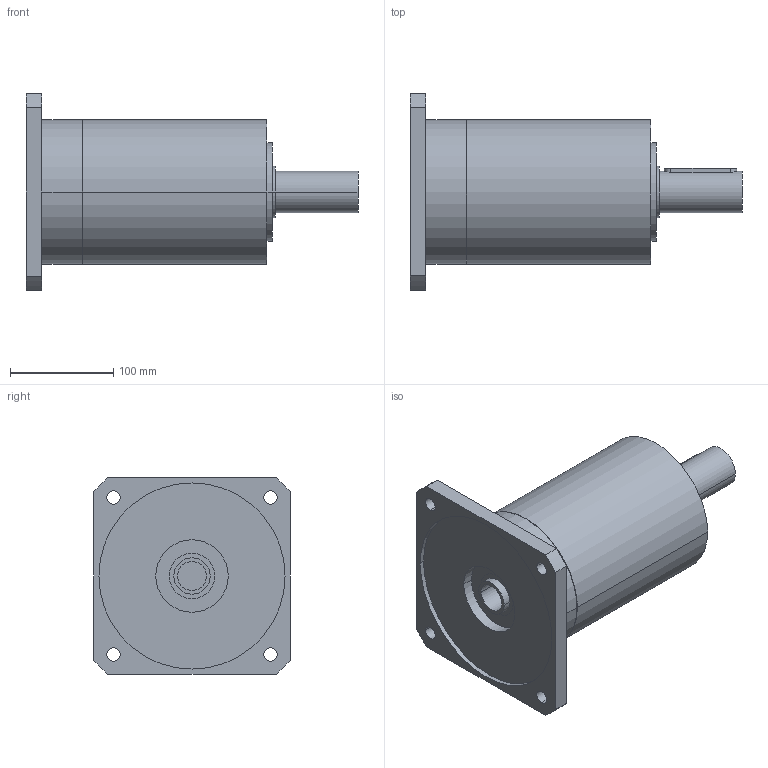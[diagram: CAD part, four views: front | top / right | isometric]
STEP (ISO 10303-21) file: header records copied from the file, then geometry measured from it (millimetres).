
FILE_DESCRIPTION(('CoCreate Modeling STEP Export'),'2;1');
FILE_NAME('GPR150_ig-9-12-16-20-28-35_40_B14_28_P06.stp','2014-08-19T17:03:47',(''),(''),'CoCreate Modeling STEP processor for AP214 (Solid Model)','CoCreate Modeling 16.00C 25-Feb-2009 (C) Parametric Technology GmbH','');
FILE_SCHEMA(('AUTOMOTIVE_DESIGN { 1 0 10303 214 1 1 1 1 }'));
Length unit declared in the file: millimetre
Products named in the file (2): GPR150_ig-9-12-16-20-28-35_40_B14_28_P06
Assembly tree (1 placements, depth 2):
  GPR150_ig-9-12-16-20-28-35_40_B14_28_P06
    GPR150_ig-9-12-16-20-28-35_40_B14_28_P06
Bounding box: 321 x 190 x 190 mm (x, y, z)
Volume: 3819447.6 mm3; surface area: 210173.9 mm2
Topology: 1 solids, 1 shells, 73 faces, 195 edges, 137 vertices
Faces by surface type: cylinder 44, plane 23, cone 6
Entity records: 2033 total; most frequent: CARTESIAN_POINT 395, ORIENTED_EDGE 386, DIRECTION 272, EDGE_CURVE 193, VERTEX_POINT 137, AXIS2_PLACEMENT_3D 102, EDGE_LOOP 96, FACE_OUTER_BOUND 73
